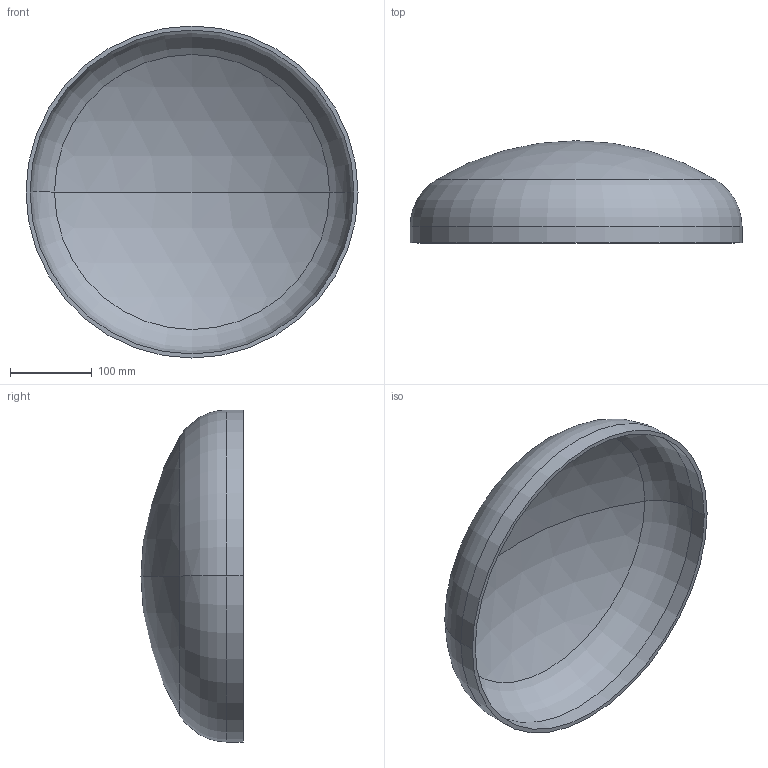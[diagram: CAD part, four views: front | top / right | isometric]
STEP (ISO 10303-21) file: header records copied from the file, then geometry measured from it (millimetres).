
FILE_DESCRIPTION (( 'STEP AP203' ), '1' );
FILE_NAME ('DIN 28013 Korbbogenform_-_Boden DIN 28013 - 406,4 x 20 - I - s=5.step', '2016-07-01T07:48:38', ( '' ), ( '' ), 'SwSTEP 2.0', 'SolidWorks 2013', '' );
FILE_SCHEMA (( 'CONFIG_CONTROL_DESIGN' ));
Length unit declared in the file: millimetre
Products named in the file (1): DIN 28013 Korbbogenform_-_Boden DIN 28013 - 406,4 x 20 - I - s=5
Bounding box: 406.4 x 125.01 x 406.4 mm (x, y, z)
Volume: 1008296.3 mm3; surface area: 409675.9 mm2
Topology: 1 solids, 1 shells, 13 faces, 24 edges, 14 vertices
Faces by surface type: torus 4, cylinder 4, sphere 4, plane 1
Entity records: 407 total; most frequent: DIRECTION 72, CARTESIAN_POINT 52, ORIENTED_EDGE 48, AXIS2_PLACEMENT_3D 34, EDGE_CURVE 24, CIRCLE 20, EDGE_LOOP 14, VERTEX_POINT 14
